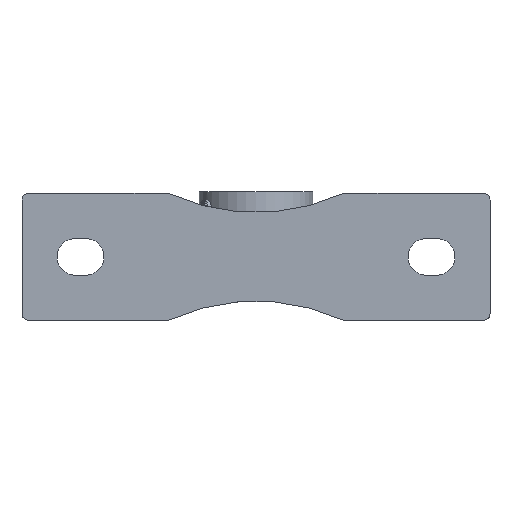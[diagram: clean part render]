
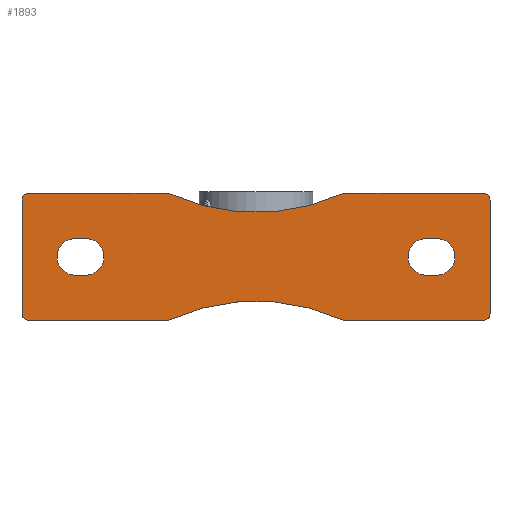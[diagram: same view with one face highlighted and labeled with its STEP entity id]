
A CAD part, front view. The second image highlights one B-rep face of the part: STEP entity #1893.
In plain terms, the highlighted planar face has unit normal (0, -1, 0).
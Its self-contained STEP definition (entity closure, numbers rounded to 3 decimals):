
#96=FACE_BOUND('',#283,.T.);
#97=FACE_BOUND('',#284,.T.);
#116=PLANE('',#2092);
#175=FACE_OUTER_BOUND('',#282,.T.);
#282=EDGE_LOOP('',(#1237,#1238,#1239,#1240,#1241,#1242,#1243,#1244,#1245,
#1246,#1247,#1248));
#283=EDGE_LOOP('',(#1249,#1250,#1251,#1252));
#284=EDGE_LOOP('',(#1253,#1254,#1255,#1256));
#431=LINE('',#2929,#553);
#432=LINE('',#2933,#554);
#433=LINE('',#2937,#555);
#434=LINE('',#2941,#556);
#435=LINE('',#2945,#557);
#436=LINE('',#2948,#558);
#437=LINE('',#2953,#559);
#438=LINE('',#2956,#560);
#439=LINE('',#2961,#561);
#440=LINE('',#2964,#562);
#553=VECTOR('',#2325,10.);
#554=VECTOR('',#2328,10.);
#555=VECTOR('',#2331,10.);
#556=VECTOR('',#2334,10.);
#557=VECTOR('',#2337,10.);
#558=VECTOR('',#2340,10.);
#559=VECTOR('',#2343,10.);
#560=VECTOR('',#2346,10.);
#561=VECTOR('',#2349,10.);
#562=VECTOR('',#2352,10.);
#676=CIRCLE('',#2093,2.);
#677=CIRCLE('',#2094,63.);
#678=CIRCLE('',#2095,2.);
#679=CIRCLE('',#2096,2.);
#680=CIRCLE('',#2097,63.);
#681=CIRCLE('',#2098,2.);
#682=CIRCLE('',#2099,5.5);
#683=CIRCLE('',#2100,5.5);
#684=CIRCLE('',#2101,5.5);
#685=CIRCLE('',#2102,5.5);
#770=VERTEX_POINT('',#2925);
#771=VERTEX_POINT('',#2926);
#772=VERTEX_POINT('',#2928);
#773=VERTEX_POINT('',#2930);
#774=VERTEX_POINT('',#2932);
#775=VERTEX_POINT('',#2934);
#776=VERTEX_POINT('',#2936);
#777=VERTEX_POINT('',#2938);
#778=VERTEX_POINT('',#2940);
#779=VERTEX_POINT('',#2942);
#780=VERTEX_POINT('',#2944);
#781=VERTEX_POINT('',#2946);
#782=VERTEX_POINT('',#2949);
#783=VERTEX_POINT('',#2950);
#784=VERTEX_POINT('',#2952);
#785=VERTEX_POINT('',#2954);
#786=VERTEX_POINT('',#2957);
#787=VERTEX_POINT('',#2958);
#788=VERTEX_POINT('',#2960);
#789=VERTEX_POINT('',#2962);
#958=EDGE_CURVE('',#770,#771,#676,.T.);
#959=EDGE_CURVE('',#770,#772,#431,.T.);
#960=EDGE_CURVE('',#772,#773,#677,.T.);
#961=EDGE_CURVE('',#773,#774,#432,.T.);
#962=EDGE_CURVE('',#775,#774,#678,.T.);
#963=EDGE_CURVE('',#775,#776,#433,.T.);
#964=EDGE_CURVE('',#777,#776,#679,.T.);
#965=EDGE_CURVE('',#778,#777,#434,.T.);
#966=EDGE_CURVE('',#778,#779,#680,.T.);
#967=EDGE_CURVE('',#780,#779,#435,.T.);
#968=EDGE_CURVE('',#781,#780,#681,.T.);
#969=EDGE_CURVE('',#781,#771,#436,.T.);
#970=EDGE_CURVE('',#782,#783,#682,.T.);
#971=EDGE_CURVE('',#783,#784,#437,.T.);
#972=EDGE_CURVE('',#784,#785,#683,.T.);
#973=EDGE_CURVE('',#785,#782,#438,.T.);
#974=EDGE_CURVE('',#786,#787,#684,.T.);
#975=EDGE_CURVE('',#787,#788,#439,.T.);
#976=EDGE_CURVE('',#788,#789,#685,.T.);
#977=EDGE_CURVE('',#789,#786,#440,.T.);
#1237=ORIENTED_EDGE('',*,*,#958,.F.);
#1238=ORIENTED_EDGE('',*,*,#959,.T.);
#1239=ORIENTED_EDGE('',*,*,#960,.T.);
#1240=ORIENTED_EDGE('',*,*,#961,.T.);
#1241=ORIENTED_EDGE('',*,*,#962,.F.);
#1242=ORIENTED_EDGE('',*,*,#963,.T.);
#1243=ORIENTED_EDGE('',*,*,#964,.F.);
#1244=ORIENTED_EDGE('',*,*,#965,.F.);
#1245=ORIENTED_EDGE('',*,*,#966,.T.);
#1246=ORIENTED_EDGE('',*,*,#967,.F.);
#1247=ORIENTED_EDGE('',*,*,#968,.F.);
#1248=ORIENTED_EDGE('',*,*,#969,.T.);
#1249=ORIENTED_EDGE('',*,*,#970,.T.);
#1250=ORIENTED_EDGE('',*,*,#971,.T.);
#1251=ORIENTED_EDGE('',*,*,#972,.T.);
#1252=ORIENTED_EDGE('',*,*,#973,.T.);
#1253=ORIENTED_EDGE('',*,*,#974,.T.);
#1254=ORIENTED_EDGE('',*,*,#975,.T.);
#1255=ORIENTED_EDGE('',*,*,#976,.T.);
#1256=ORIENTED_EDGE('',*,*,#977,.T.);
#1893=ADVANCED_FACE('',(#175,#96,#97),#116,.F.);
#2092=AXIS2_PLACEMENT_3D('',#2924,#2321,#2322);
#2093=AXIS2_PLACEMENT_3D('',#2927,#2323,#2324);
#2094=AXIS2_PLACEMENT_3D('',#2931,#2326,#2327);
#2095=AXIS2_PLACEMENT_3D('',#2935,#2329,#2330);
#2096=AXIS2_PLACEMENT_3D('',#2939,#2332,#2333);
#2097=AXIS2_PLACEMENT_3D('',#2943,#2335,#2336);
#2098=AXIS2_PLACEMENT_3D('',#2947,#2338,#2339);
#2099=AXIS2_PLACEMENT_3D('',#2951,#2341,#2342);
#2100=AXIS2_PLACEMENT_3D('',#2955,#2344,#2345);
#2101=AXIS2_PLACEMENT_3D('',#2959,#2347,#2348);
#2102=AXIS2_PLACEMENT_3D('',#2963,#2350,#2351);
#2321=DIRECTION('center_axis',(0.,1.,0.));
#2322=DIRECTION('ref_axis',(0.,0.,1.));
#2323=DIRECTION('center_axis',(0.,1.,0.));
#2324=DIRECTION('ref_axis',(-0.707,0.,-0.707));
#2325=DIRECTION('',(1.,0.,0.));
#2326=DIRECTION('center_axis',(0.,1.,0.));
#2327=DIRECTION('ref_axis',(1.,0.,0.));
#2328=DIRECTION('',(1.,0.,0.));
#2329=DIRECTION('center_axis',(0.,1.,0.));
#2330=DIRECTION('ref_axis',(0.707,0.,-0.707));
#2331=DIRECTION('',(0.,0.,1.));
#2332=DIRECTION('center_axis',(0.,1.,0.));
#2333=DIRECTION('ref_axis',(0.707,0.,0.707));
#2334=DIRECTION('',(1.,0.,0.));
#2335=DIRECTION('center_axis',(0.,1.,0.));
#2336=DIRECTION('ref_axis',(1.,0.,0.));
#2337=DIRECTION('',(1.,0.,0.));
#2338=DIRECTION('center_axis',(0.,1.,0.));
#2339=DIRECTION('ref_axis',(-0.707,0.,0.707));
#2340=DIRECTION('',(0.,0.,-1.));
#2341=DIRECTION('center_axis',(0.,1.,0.));
#2342=DIRECTION('ref_axis',(0.,0.,1.));
#2343=DIRECTION('',(1.,0.,0.));
#2344=DIRECTION('center_axis',(0.,1.,0.));
#2345=DIRECTION('ref_axis',(0.,0.,-1.));
#2346=DIRECTION('',(-1.,0.,0.));
#2347=DIRECTION('center_axis',(0.,1.,0.));
#2348=DIRECTION('ref_axis',(0.,0.,1.));
#2349=DIRECTION('',(-1.,0.,0.));
#2350=DIRECTION('center_axis',(0.,1.,0.));
#2351=DIRECTION('ref_axis',(0.,0.,-1.));
#2352=DIRECTION('',(1.,0.,0.));
#2924=CARTESIAN_POINT('Origin',(-35.,-36.5,0.));
#2925=CARTESIAN_POINT('',(-68.,-36.5,-19.));
#2926=CARTESIAN_POINT('',(-70.,-36.5,-17.));
#2927=CARTESIAN_POINT('Origin',(-68.,-36.5,-17.));
#2928=CARTESIAN_POINT('',(-26.295,-36.5,-19.));
#2929=CARTESIAN_POINT('',(-70.,-36.5,-19.));
#2930=CARTESIAN_POINT('',(26.295,-36.5,-19.));
#2931=CARTESIAN_POINT('Origin',(0.,-36.5,-76.25));
#2932=CARTESIAN_POINT('',(68.,-36.5,-19.));
#2933=CARTESIAN_POINT('',(-70.,-36.5,-19.));
#2934=CARTESIAN_POINT('',(70.,-36.5,-17.));
#2935=CARTESIAN_POINT('Origin',(68.,-36.5,-17.));
#2936=CARTESIAN_POINT('',(70.,-36.5,17.));
#2937=CARTESIAN_POINT('',(70.,-36.5,0.));
#2938=CARTESIAN_POINT('',(68.,-36.5,19.));
#2939=CARTESIAN_POINT('Origin',(68.,-36.5,17.));
#2940=CARTESIAN_POINT('',(26.295,-36.5,19.));
#2941=CARTESIAN_POINT('',(-10.5,-36.5,19.));
#2942=CARTESIAN_POINT('',(-26.295,-36.5,19.));
#2943=CARTESIAN_POINT('Origin',(0.,-36.5,76.25));
#2944=CARTESIAN_POINT('',(-68.,-36.5,19.));
#2945=CARTESIAN_POINT('',(-10.5,-36.5,19.));
#2946=CARTESIAN_POINT('',(-70.,-36.5,17.));
#2947=CARTESIAN_POINT('Origin',(-68.,-36.5,17.));
#2948=CARTESIAN_POINT('',(-70.,-36.5,0.));
#2949=CARTESIAN_POINT('',(51.,-36.5,-5.5));
#2950=CARTESIAN_POINT('',(51.,-36.5,5.5));
#2951=CARTESIAN_POINT('Origin',(51.,-36.5,0.));
#2952=CARTESIAN_POINT('',(54.,-36.5,5.5));
#2953=CARTESIAN_POINT('',(9.5,-36.5,5.5));
#2954=CARTESIAN_POINT('',(54.,-36.5,-5.5));
#2955=CARTESIAN_POINT('Origin',(54.,-36.5,0.));
#2956=CARTESIAN_POINT('',(8.,-36.5,-5.5));
#2957=CARTESIAN_POINT('',(-51.,-36.5,5.5));
#2958=CARTESIAN_POINT('',(-51.,-36.5,-5.5));
#2959=CARTESIAN_POINT('Origin',(-51.,-36.5,0.));
#2960=CARTESIAN_POINT('',(-54.,-36.5,-5.5));
#2961=CARTESIAN_POINT('',(-44.5,-36.5,-5.5));
#2962=CARTESIAN_POINT('',(-54.,-36.5,5.5));
#2963=CARTESIAN_POINT('Origin',(-54.,-36.5,0.));
#2964=CARTESIAN_POINT('',(-43.,-36.5,5.5));
